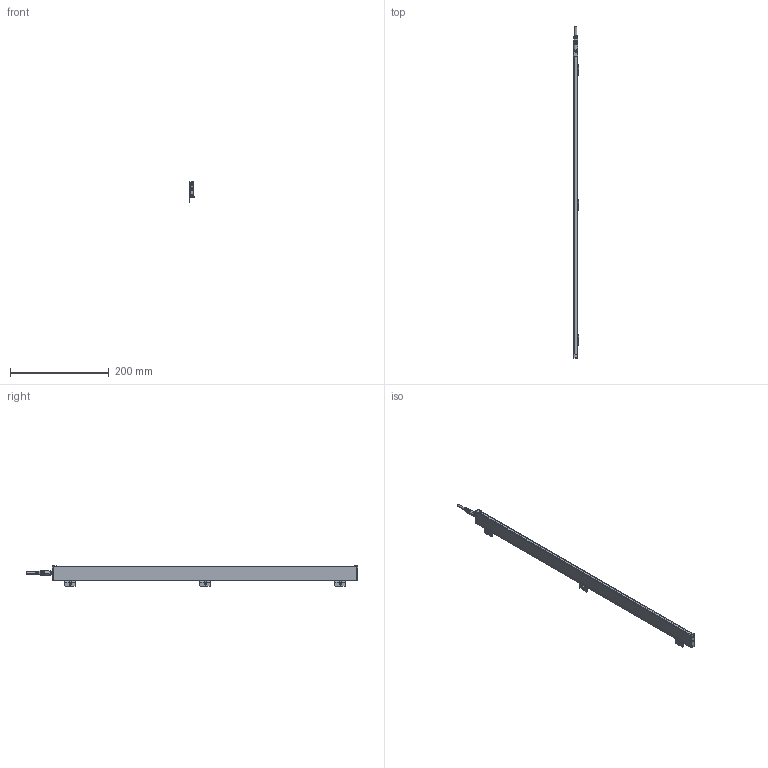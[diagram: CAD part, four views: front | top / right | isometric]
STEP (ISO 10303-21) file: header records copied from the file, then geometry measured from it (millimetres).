
FILE_DESCRIPTION (( 'STEP AP214' ), '1' );
FILE_NAME ('ILG-N-K2-0620mm.STEP', '2017-07-10T13:50:05', ( '' ), ( '' ), 'SwSTEP 2.0', 'SolidWorks 2016', '' );
FILE_SCHEMA (( 'AUTOMOTIVE_DESIGN' ));
Length unit declared in the file: millimetre
Products named in the file (1): ILG-N-K2-0620mm
Bounding box: 10.23 x 673.5 x 42.41 mm (x, y, z)
Surface area: 109974.9 mm2 (no closed solid volume)
Topology: 0 solids, 16 shells, 781 faces, 2020 edges, 1269 vertices
Faces by surface type: plane 346, cylinder 297, cone 90, bspline 32, torus 16
Entity records: 34483 total; most frequent: CARTESIAN_POINT 6956, ORIENTED_EDGE 3993, DIRECTION 3858, EDGE_CURVE 2004, AXIS2_PLACEMENT_3D 1419, VERTEX_POINT 1269, LINE 1020, VECTOR 1020
